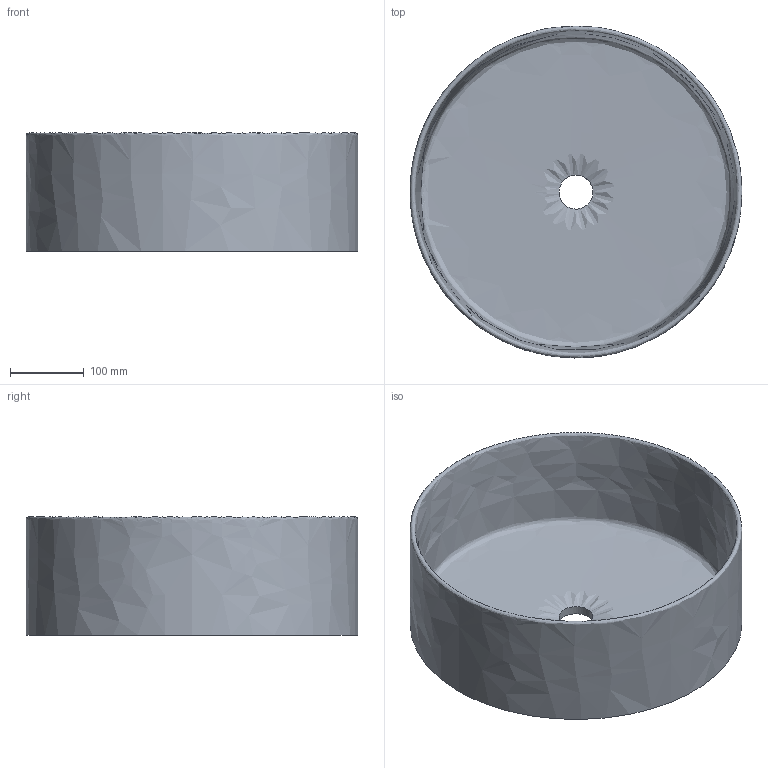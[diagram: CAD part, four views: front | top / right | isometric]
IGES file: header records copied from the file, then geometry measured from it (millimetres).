
Global section: file name: C:\Users\DE NITTO FULVIO\Desktop\Nic\2017\Maggio\Collezione Ovvio\Ovvio Lavabo tondo 45\Modello 3D\Ovvio Lavabo tondo 45.igs; native system: Rhinoceros ( Oct 24 2012 ); preprocessor: Trout Lake IGES 012 Oct 24 2012; date: 170505.155625; units: millimetre
Bounding box: 450 x 450 x 160 mm (x, y, z)
Surface area: 713995.4 mm2 (no closed solid volume)
Topology: 0 solids, 0 shells, 3 faces, 9 edges, 6 vertices
Faces by surface type: bspline 3
